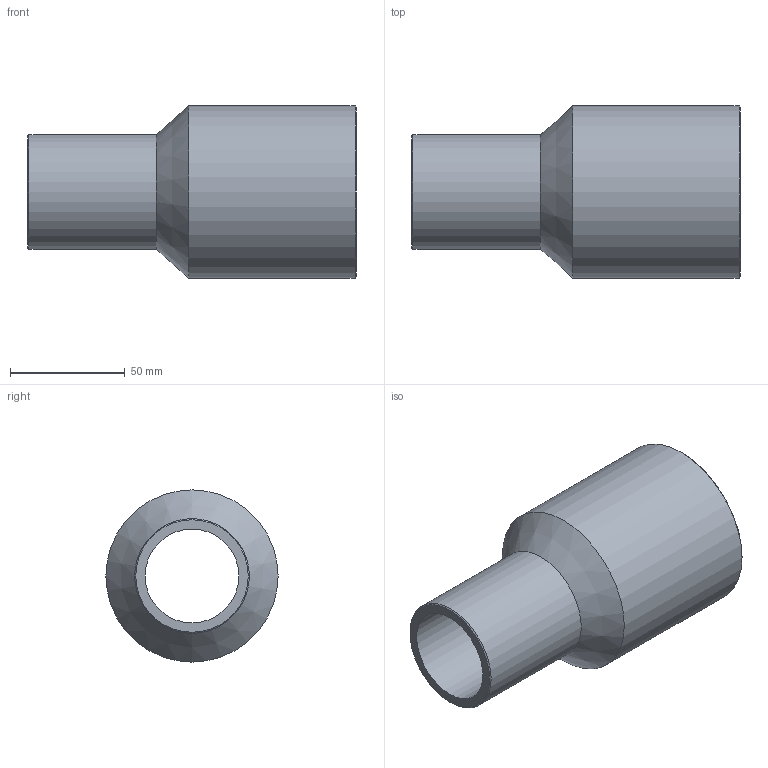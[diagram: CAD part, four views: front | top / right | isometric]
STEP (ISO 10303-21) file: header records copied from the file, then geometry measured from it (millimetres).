
FILE_DESCRIPTION(/* description */ ('Unknown'),/* implementation_level */ '2;1');
FILE_NAME(/* name */ 'RP075050C',/* time_stamp */ '2021-09-17T15:04:21+02:00',/* author */ ('Unknown'),/* organization */ ('Unknown'),/* preprocessor_version */ 'ST-DEVELOPER v16.7',/* originating_system */ 'Solid Edge',/* authorisation */ 'Unknown');
FILE_SCHEMA (('AUTOMOTIVE_DESIGN {1 0 10303 214 3 1 1}'));
Length unit declared in the file: millimetre
Products named in the file (1): RP075050C
Bounding box: 143 x 75 x 75 mm (x, y, z)
Volume: 163426.7 mm3; surface area: 55421.2 mm2
Topology: 1 solids, 1 shells, 10 faces, 19 edges, 11 vertices
Faces by surface type: cylinder 4, cone 4, plane 2
Full cylindrical faces by diameter (mm): 40.8 x1, 50 x1, 61.4 x1, 75 x1
Entity records: 238 total; most frequent: DIRECTION 42, CARTESIAN_POINT 31, AXIS2_PLACEMENT_3D 21, ORIENTED_EDGE 20, EDGE_LOOP 20, FACE_BOUND 20, EDGE_CURVE 10, VERTEX_POINT 10
